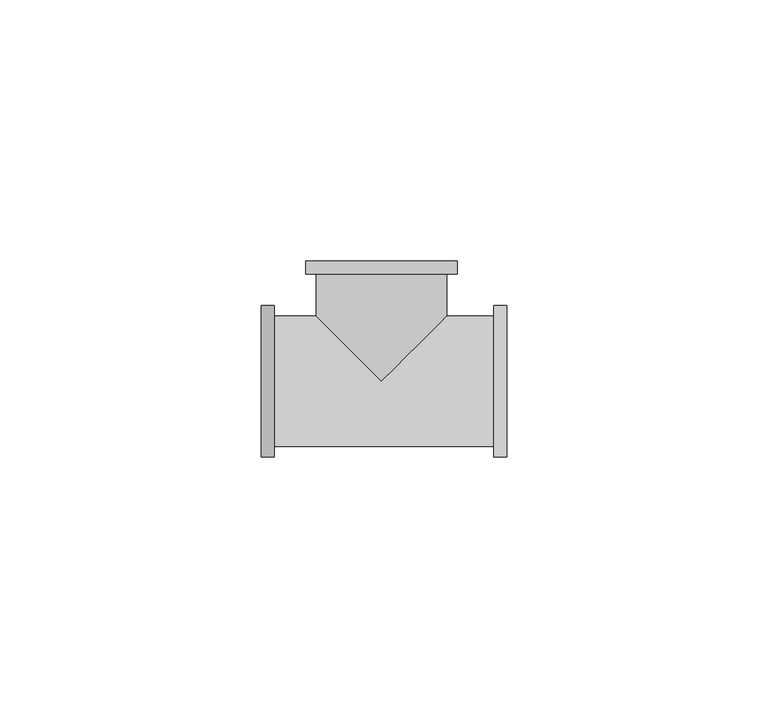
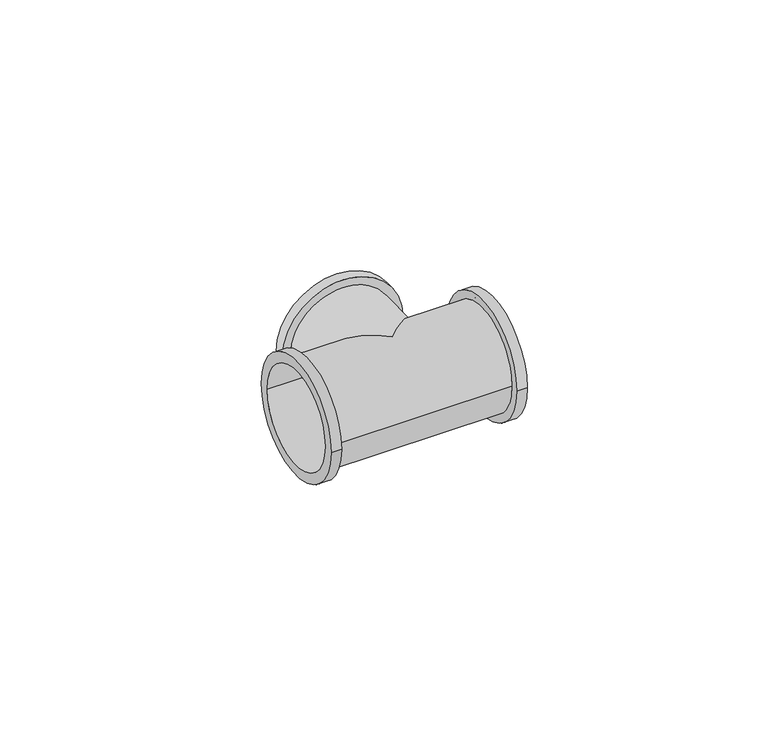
"""IFC4 building model written with IfcOpenShell, lengths in millimetres: pipe fitting geometry, БИР ПЕКС_КМП_Тройник ПЕКС : Тройник ПЕКС_КМП."""

from ifc_helpers import new_model, si_unit, frame, origin, place, context, project, spatial, polyline, circle_curve, ellipse_curve, source, transform, mapped, element, save
from ifc_brep_helpers import plane_surface, cylinder_surface, revolved_surface, advanced_brep


def pipe_fitting_86cad487(model_context):
    return source(origin(), model_context, "Body", "AdvancedBrep", [
        advanced_brep(
        [(-14.5, 23.0, 0.0), (14.5, 23.0, 0.0), (-12.0, 23.0, 0.0), (12.0, 23.0, 0.0), (12.5, 12.5, 0.0), (0.0, 0.0, -12.5), (-12.5, 12.5, 0.0), (-12.5, 20.5, 0.0), (12.5, 20.5, 0.0), (0.0, 0.0, 12.5), (24.0, -14.5, 0.0), (24.0, 14.5, 0.0), (24.0, 12.0, 0.0), (24.0, -12.0, 0.0), (-23.0, -14.5, 0.0), (-23.0, 14.5, 0.0), (-23.0, -12.0, 0.0), (-23.0, 12.0, 0.0), (21.5, 12.5, 0.0), (21.5, -12.5, 0.0), (-20.5, -12.5, 0.0), (-20.5, 12.5, 0.0), (-14.5, 20.5, 0.0), (14.5, 20.5, 0.0), (-20.5, -14.5, 0.0), (-20.5, 14.5, 0.0), (21.5, -14.5, 0.0), (21.5, 14.5, 0.0), (-12.0, 12.0, 0.0), (0.0, 0.0, -12.0), (12.0, 12.0, 0.0), (0.0, 0.0, 12.0)],
        [
            (0, 1, circle_curve(frame((0.0, 23.0, 0.0), z_axis=(0.0, 1.0, 0.0), x_axis=(1.0, 0.0, 0.0)), 14.5)),
            (1, 0, circle_curve(frame((0.0, 23.0, 0.0), z_axis=(0.0, 1.0, 0.0), x_axis=(1.0, 0.0, 0.0)), 14.5)),
            (2, 3, circle_curve(frame((0.0, 23.0, 0.0), z_axis=(0.0, -1.0, 0.0), x_axis=(1.0, 0.0, 0.0)), 12.0)),
            (3, 2, circle_curve(frame((0.0, 23.0, 0.0), z_axis=(0.0, -1.0, 0.0), x_axis=(1.0, 0.0, 0.0)), 12.0)),
            (4, 5, ellipse_curve(frame((0.0, 0.0, 0.0), z_axis=(-0.7071067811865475, 0.7071067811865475, 0.0), x_axis=(-0.7071067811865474, -0.7071067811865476, 0.0)), 17.6776695, 12.5)),
            (5, 6, ellipse_curve(frame((0.0, 0.0, 0.0), z_axis=(0.7071067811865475, 0.7071067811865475, 0.0), x_axis=(0.7071067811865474, -0.7071067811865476, 0.0)), 17.6776695, 12.5)),
            (6, 7),
            (7, 8, circle_curve(frame((0.0, 20.5, 0.0), z_axis=(0.0, -1.0, 0.0), x_axis=(1.0, 0.0, 0.0)), 12.5)),
            (8, 4),
            (9, 4, ellipse_curve(frame((0.0, 0.0, 0.0), z_axis=(-0.7071067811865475, 0.7071067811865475, 0.0), x_axis=(-0.7071067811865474, -0.7071067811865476, 0.0)), 17.6776695, 12.5)),
            (8, 7, circle_curve(frame((0.0, 20.5, 0.0), z_axis=(0.0, -1.0, 0.0), x_axis=(1.0, 0.0, 0.0)), 12.5)),
            (6, 9, ellipse_curve(frame((0.0, 0.0, 0.0), z_axis=(0.7071067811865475, 0.7071067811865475, 0.0), x_axis=(0.7071067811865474, -0.7071067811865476, 0.0)), 17.6776695, 12.5)),
            (10, 11, circle_curve(frame((24.0, 0.0, 0.0), z_axis=(1.0, 0.0, 0.0), x_axis=(0.0, 1.0, 0.0)), 14.5)),
            (11, 10, circle_curve(frame((24.0, 0.0, 0.0), z_axis=(1.0, 0.0, 0.0), x_axis=(0.0, 1.0, 0.0)), 14.5)),
            (12, 13, circle_curve(frame((24.0, 0.0, 0.0), z_axis=(-1.0, 0.0, 0.0), x_axis=(0.0, 1.0, 0.0)), 12.0)),
            (13, 12, circle_curve(frame((24.0, 0.0, 0.0), z_axis=(-1.0, 0.0, 0.0), x_axis=(0.0, 1.0, 0.0)), 12.0)),
            (14, 15, circle_curve(frame((-23.0, 0.0, 0.0), z_axis=(-1.0, 0.0, 0.0), x_axis=(0.0, 1.0, 0.0)), 14.5)),
            (15, 14, circle_curve(frame((-23.0, 0.0, 0.0), z_axis=(-1.0, 0.0, 0.0), x_axis=(0.0, 1.0, 0.0)), 14.5)),
            (16, 17, circle_curve(frame((-23.0, 0.0, 0.0), z_axis=(1.0, 0.0, 0.0), x_axis=(0.0, 1.0, 0.0)), 12.0)),
            (17, 16, circle_curve(frame((-23.0, 0.0, 0.0), z_axis=(1.0, 0.0, 0.0), x_axis=(0.0, 1.0, 0.0)), 12.0)),
            (4, 18),
            (18, 19, circle_curve(frame((21.5, 0.0, 0.0), z_axis=(-1.0, 0.0, 0.0), x_axis=(0.0, 1.0, 0.0)), 12.5)),
            (19, 20),
            (20, 21, circle_curve(frame((-20.5, 0.0, 0.0), z_axis=(1.0, 0.0, 0.0), x_axis=(0.0, 1.0, 0.0)), 12.5)),
            (21, 6),
            (21, 20, circle_curve(frame((-20.5, 0.0, 0.0), z_axis=(1.0, 0.0, 0.0), x_axis=(0.0, 1.0, 0.0)), 12.5)),
            (19, 18, circle_curve(frame((21.5, 0.0, 0.0), z_axis=(-1.0, 0.0, 0.0), x_axis=(0.0, 1.0, 0.0)), 12.5)),
            (22, 23, circle_curve(frame((0.0, 20.5, 0.0), z_axis=(0.0, -1.0, 0.0), x_axis=(1.0, 0.0, 0.0)), 14.5)),
            (23, 22, circle_curve(frame((0.0, 20.5, 0.0), z_axis=(0.0, -1.0, 0.0), x_axis=(1.0, 0.0, 0.0)), 14.5)),
            (22, 0),
            (1, 23),
            (24, 25, circle_curve(frame((-20.5, 0.0, 0.0), z_axis=(1.0, 0.0, 0.0), x_axis=(0.0, 1.0, 0.0)), 14.5)),
            (25, 24, circle_curve(frame((-20.5, 0.0, 0.0), z_axis=(1.0, 0.0, 0.0), x_axis=(0.0, 1.0, 0.0)), 14.5)),
            (15, 25),
            (24, 14),
            (26, 27, circle_curve(frame((21.5, 0.0, 0.0), z_axis=(-1.0, 0.0, 0.0), x_axis=(0.0, 1.0, 0.0)), 14.5)),
            (27, 26, circle_curve(frame((21.5, 0.0, 0.0), z_axis=(-1.0, 0.0, 0.0), x_axis=(0.0, 1.0, 0.0)), 14.5)),
            (10, 26),
            (27, 11),
            (2, 28),
            (28, 29, ellipse_curve(frame((0.0, 0.0, 0.0), z_axis=(-0.7071067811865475, -0.7071067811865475, 0.0), x_axis=(0.7071067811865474, -0.7071067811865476, 0.0)), 16.9705627, 12.0)),
            (29, 30, ellipse_curve(frame((0.0, 0.0, 0.0), z_axis=(0.7071067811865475, -0.7071067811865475, 0.0), x_axis=(-0.7071067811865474, -0.7071067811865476, 0.0)), 16.9705627, 12.0)),
            (30, 3),
            (30, 31, ellipse_curve(frame((0.0, 0.0, 0.0), z_axis=(0.7071067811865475, -0.7071067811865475, 0.0), x_axis=(-0.7071067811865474, -0.7071067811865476, 0.0)), 16.9705627, 12.0)),
            (31, 28, ellipse_curve(frame((0.0, 0.0, 0.0), z_axis=(-0.7071067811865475, -0.7071067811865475, 0.0), x_axis=(0.7071067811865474, -0.7071067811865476, 0.0)), 16.9705627, 12.0)),
            (16, 13),
            (12, 30),
            (28, 17),
        ],
        [
            plane_surface(frame((12.5, 23.0, 0.0), z_axis=(0.0, 1.0, 0.0), x_axis=(0.0, 0.0, -1.0))),
            cylinder_surface(frame((0.0, 23.0, 0.0), z_axis=(0.0, -1.0, 0.0), x_axis=(1.0, 0.0, 0.0)), 12.5),
            plane_surface(frame((24.0, 12.5, 0.0), z_axis=(1.0, 0.0, 0.0), x_axis=(0.0, 0.0, 1.0))),
            plane_surface(frame((-23.0, 12.5, 0.0), z_axis=(-1.0, 0.0, 0.0), x_axis=(0.0, 0.0, -1.0))),
            cylinder_surface(frame((-23.0, 0.0, 0.0), z_axis=(1.0, 0.0, 0.0), x_axis=(0.0, 1.0, 0.0)), 12.5),
            plane_surface(frame((14.5, 20.5, 0.0), z_axis=(0.0, -1.0, 0.0), x_axis=(0.0, 0.0, 1.0))),
            cylinder_surface(frame((0.0, 23.0, 0.0), z_axis=(0.0, -1.0, 0.0), x_axis=(1.0, 0.0, 0.0)), 14.5),
            plane_surface(frame((-20.5, 14.5, 0.0), z_axis=(1.0, 0.0, 0.0), x_axis=(0.0, 0.0, 1.0))),
            cylinder_surface(frame((-20.5, 0.0, 0.0), z_axis=(-1.0, 0.0, 0.0), x_axis=(0.0, 1.0, 0.0)), 14.5),
            plane_surface(frame((21.5, 14.5, 0.0), z_axis=(-1.0, 0.0, 0.0), x_axis=(0.0, 0.0, -1.0))),
            cylinder_surface(frame((21.5, 0.0, 0.0), z_axis=(1.0, 0.0, 0.0), x_axis=(0.0, 1.0, 0.0)), 14.5),
            revolved_surface(polyline([(12.0, -11.999999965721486, 0.0), (12.0, 23.0, 0.0)]), (0.0, 23.0, 0.0), (0.0, -1.0, 0.0)),
            revolved_surface(polyline([(24.0, 12.0, 0.0), (-23.0, 12.0, 0.0)]), (-23.0, 0.0, 0.0), (1.0, 0.0, 0.0)),
        ],
        [
            (0, [[1, 2], [3, 4]]),
            (1, [[5, 6, 7, 8, 9]]),
            (1, [[10, -9, 11, -7, 12]]),
            (2, [[13, 14], [15, 16]]),
            (3, [[17, 18], [19, 20]]),
            (4, [[-5, 21, 22, 23, 24, 25, -6]]),
            (4, [[-10, -12, -25, 26, -23, 27, -21]]),
            (5, [[28, 29], [-8, -11]]),
            (6, [[-28, 30, -2, 31]]),
            (6, [[-29, -31, -1, -30]]),
            (7, [[32, 33], [-24, -26]]),
            (8, [[-18, 34, -32, 35]]),
            (8, [[-17, -35, -33, -34]]),
            (9, [[36, 37], [-22, -27]]),
            (10, [[-13, 38, -37, 39]]),
            (10, [[-14, -39, -36, -38]]),
            (11, [[-3, 40, 41, 42, 43]]),
            (11, [[-4, -43, 44, 45, -40]]),
            (12, [[46, -15, 47, -42, -41, 48, -19]]),
            (12, [[-46, -20, -48, -45, -44, -47, -16]]),
        ],
    ),
    ])


if __name__ == "__main__":
    model = new_model("IFC4")
    model_context = context("Model", 3, world=origin())
    ifc_project = project(units=[si_unit("LENGTHUNIT", "METRE", prefix="MILLI")], contexts=[model_context])
    site = spatial("IfcSite", under=ifc_project)
    building = spatial("IfcBuilding", under=site)
    placement = place(None, origin())
    pipe_fitting_shape = pipe_fitting_86cad487(model_context)
    element("IfcPipeFitting", 1, ObjectType="БИР ПЕКС_КМП_Тройник ПЕКС : Тройник ПЕКС_КМП", at=placement, inside=building, context=model_context, shape_type="MappedRepresentation", body=[
        mapped(pipe_fitting_shape, transform((0.0, 0.0, 0.0), x_axis=(1.0, 0.0, 0.0), y_axis=(0.0, 1.0, 0.0), z_axis=(0.0, 0.0, 1.0))),
    ])
    save(model, "model.ifc")
